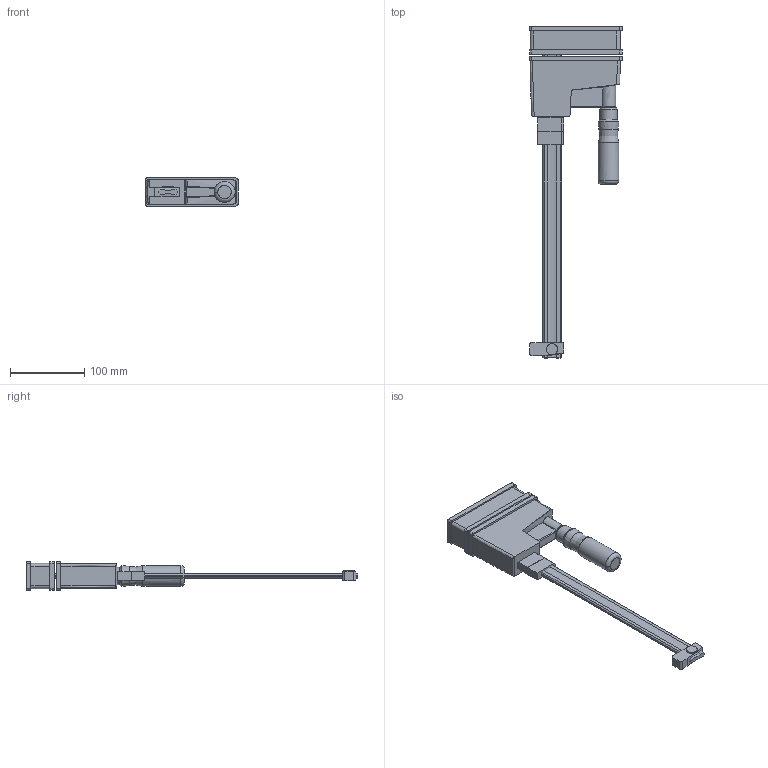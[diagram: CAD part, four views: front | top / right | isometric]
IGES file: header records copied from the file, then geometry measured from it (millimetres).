
Start section: ZWSOFT
Global section: file name: KRJ30.igs; native system: ZW3D; preprocessor: 1.0; author: ZW3D; organization: ZWSOFT; date: 141015.113734; units: millimetre
Bounding box: 124.5 x 446.2 x 38 mm (x, y, z)
Surface area: 93786.2 mm2 (no closed solid volume)
Topology: 0 solids, 0 shells, 127 faces, 655 edges, 633 vertices
Faces by surface type: bspline 127
